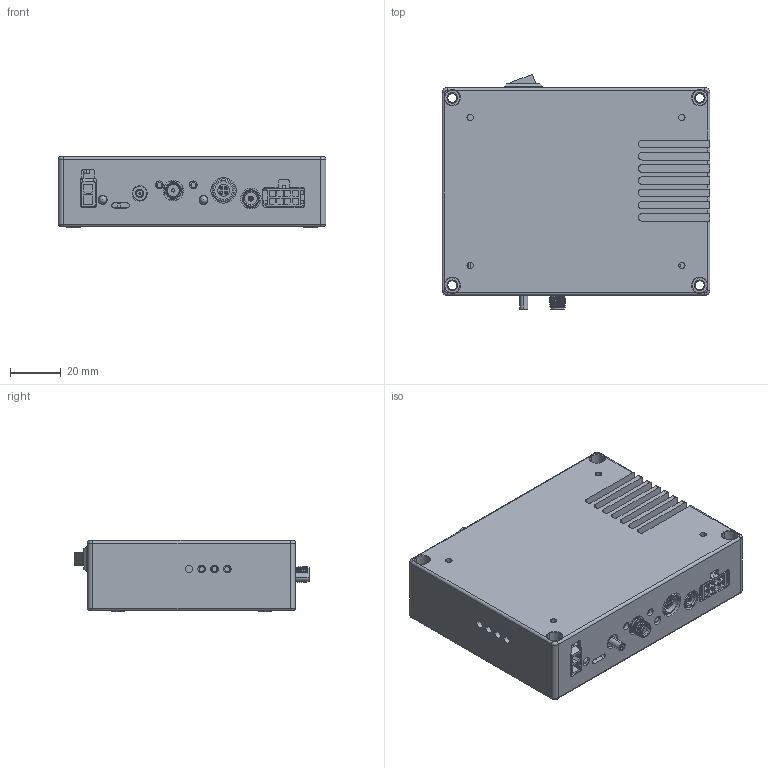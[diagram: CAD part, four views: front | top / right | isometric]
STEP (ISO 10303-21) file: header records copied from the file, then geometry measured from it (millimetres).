
FILE_DESCRIPTION (( 'STEP AP203' ), '1' );
FILE_NAME ('E53.B1S-K.STEP', '2025-07-14T07:51:53', ( 'China' ), ( 'Home' ), 'SwSTEP 2.0', 'SolidWorks 2016', '' );
FILE_SCHEMA (( 'CONFIG_CONTROL_DESIGN' ));
Length unit declared in the file: millimetre
Products named in the file (1): E53.B1S-K
Bounding box: 105 x 92.34 x 27.85 mm (x, y, z)
Surface area: 51265.9 mm2 (no closed solid volume)
Topology: 0 solids, 34 shells, 492 faces, 1735 edges, 1271 vertices
Faces by surface type: plane 226, cylinder 217, cone 26, torus 12, bspline 9, sphere 2
Entity records: 20809 total; most frequent: CARTESIAN_POINT 5757, DIRECTION 3216, ORIENTED_EDGE 2701, EDGE_CURVE 1729, VERTEX_POINT 1267, AXIS2_PLACEMENT_3D 1128, VECTOR 960, LINE 960
